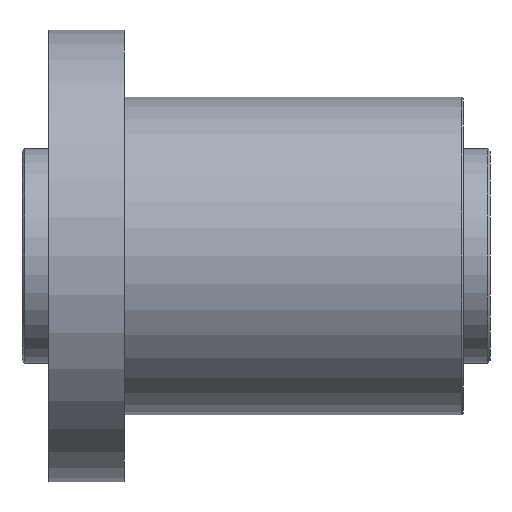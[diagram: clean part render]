
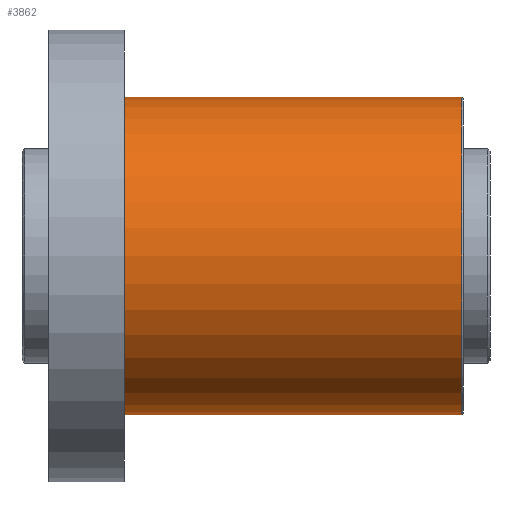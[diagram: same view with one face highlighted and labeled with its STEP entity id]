
A CAD part, front view. The second image highlights one B-rep face of the part: STEP entity #3862.
In plain terms, the highlighted cylindrical face has radius 59 mm (diameter 118 mm), a partial arc.
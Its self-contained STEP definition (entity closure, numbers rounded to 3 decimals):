
#4 = EDGE_CURVE ( 'NONE', #373, #128, #3339, .T. ) ;
#128 = VERTEX_POINT ( 'NONE', #1492 ) ;
#143 = DIRECTION ( 'NONE',  ( -1., 0., 0. ) ) ;
#151 = AXIS2_PLACEMENT_3D ( 'NONE', #2499, #2514, #354 ) ;
#205 = EDGE_CURVE ( 'NONE', #3923, #3030, #3004, .T. ) ;
#250 = DIRECTION ( 'NONE',  ( -1., 0., 0. ) ) ;
#354 = DIRECTION ( 'NONE',  ( 0., 0., -1. ) ) ;
#373 = VERTEX_POINT ( 'NONE', #446 ) ;
#446 = CARTESIAN_POINT ( 'NONE',  ( 153.5, 0., -59. ) ) ;
#501 = VECTOR ( 'NONE', #250, 1000. ) ;
#526 = ORIENTED_EDGE ( 'NONE', *, *, #3912, .T. ) ;
#585 = CARTESIAN_POINT ( 'NONE',  ( 154., 0., 59. ) ) ;
#590 = ORIENTED_EDGE ( 'NONE', *, *, #205, .T. ) ;
#1096 = DIRECTION ( 'NONE',  ( 0., 0., -1. ) ) ;
#1429 = DIRECTION ( 'NONE',  ( -1., 0., 0. ) ) ;
#1432 = VECTOR ( 'NONE', #1429, 1000. ) ;
#1492 = CARTESIAN_POINT ( 'NONE',  ( 153.5, 0., 59. ) ) ;
#1754 = EDGE_LOOP ( 'NONE', ( #2235, #2244, #526, #590 ) ) ;
#1957 = FACE_OUTER_BOUND ( 'NONE', #1754, .T. ) ;
#1999 = CARTESIAN_POINT ( 'NONE',  ( 153.5, 0., 0. ) ) ;
#2093 = CARTESIAN_POINT ( 'NONE',  ( 28., 0., 59. ) ) ;
#2155 = LINE ( 'NONE', #585, #501 ) ;
#2235 = ORIENTED_EDGE ( 'NONE', *, *, #3111, .F. ) ;
#2244 = ORIENTED_EDGE ( 'NONE', *, *, #4, .T. ) ;
#2401 = DIRECTION ( 'NONE',  ( 0., 0., 1. ) ) ;
#2499 = CARTESIAN_POINT ( 'NONE',  ( 28., 0., 0. ) ) ;
#2514 = DIRECTION ( 'NONE',  ( 1., 0., 0. ) ) ;
#2528 = AXIS2_PLACEMENT_3D ( 'NONE', #1999, #143, #1096 ) ;
#2626 = CARTESIAN_POINT ( 'NONE',  ( 28., 0., -59. ) ) ;
#2684 = CYLINDRICAL_SURFACE ( 'NONE', #2722, 59. ) ;
#2722 = AXIS2_PLACEMENT_3D ( 'NONE', #3331, #3646, #2401 ) ;
#3004 = CIRCLE ( 'NONE', #151, 59. ) ;
#3030 = VERTEX_POINT ( 'NONE', #2626 ) ;
#3111 = EDGE_CURVE ( 'NONE', #373, #3030, #3228, .T. ) ;
#3228 = LINE ( 'NONE', #3303, #1432 ) ;
#3303 = CARTESIAN_POINT ( 'NONE',  ( 154., 0., -59. ) ) ;
#3331 = CARTESIAN_POINT ( 'NONE',  ( 154., 0., 0. ) ) ;
#3339 = CIRCLE ( 'NONE', #2528, 59. ) ;
#3646 = DIRECTION ( 'NONE',  ( -1., 0., 0. ) ) ;
#3862 = ADVANCED_FACE ( 'NONE', ( #1957 ), #2684, .T. ) ;
#3912 = EDGE_CURVE ( 'NONE', #128, #3923, #2155, .T. ) ;
#3923 = VERTEX_POINT ( 'NONE', #2093 ) ;
